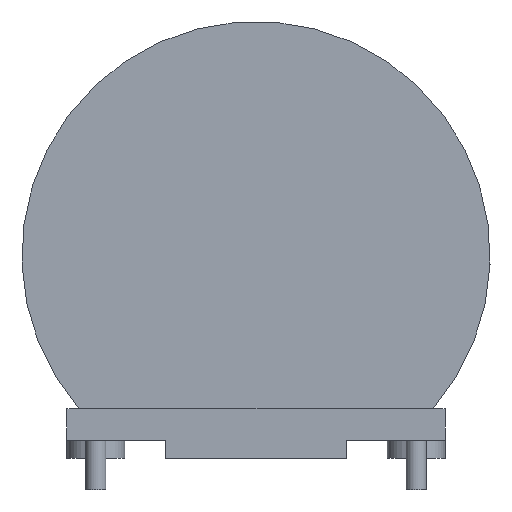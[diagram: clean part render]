
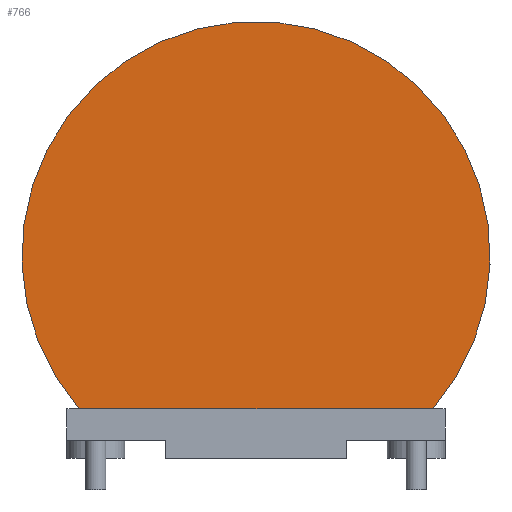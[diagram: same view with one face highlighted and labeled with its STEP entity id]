
A CAD part, front view. The second image highlights one B-rep face of the part: STEP entity #766.
In plain terms, the highlighted planar face has unit normal (0, -1, 0).
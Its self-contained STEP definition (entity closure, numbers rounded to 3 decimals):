
#46=CIRCLE('',#833,26.);
#83=FACE_OUTER_BOUND('',#141,.T.);
#141=EDGE_LOOP('',(#634,#635));
#220=LINE('',#1229,#306);
#306=VECTOR('',#1009,10.);
#382=VERTEX_POINT('',#1226);
#383=VERTEX_POINT('',#1228);
#472=EDGE_CURVE('',#383,#382,#220,.T.);
#474=EDGE_CURVE('',#382,#383,#46,.T.);
#634=ORIENTED_EDGE('',*,*,#474,.T.);
#635=ORIENTED_EDGE('',*,*,#472,.T.);
#721=PLANE('',#832);
#766=ADVANCED_FACE('',(#83),#721,.T.);
#832=AXIS2_PLACEMENT_3D('',#1231,#1011,#1012);
#833=AXIS2_PLACEMENT_3D('',#1232,#1013,#1014);
#1009=DIRECTION('',(1.,0.,0.));
#1011=DIRECTION('center_axis',(0.,-1.,0.));
#1012=DIRECTION('ref_axis',(0.,0.,-1.));
#1013=DIRECTION('center_axis',(0.,-1.,0.));
#1014=DIRECTION('ref_axis',(0.757,0.,0.654));
#1226=CARTESIAN_POINT('',(19.672,-14.25,3.5));
#1228=CARTESIAN_POINT('',(-19.672,-14.25,3.5));
#1229=CARTESIAN_POINT('',(-21.,-14.25,3.5));
#1231=CARTESIAN_POINT('Origin',(0.,-14.25,21.266));
#1232=CARTESIAN_POINT('Origin',(0.,-14.25,20.5));
